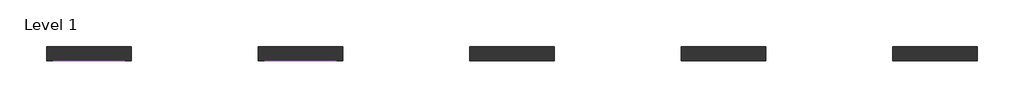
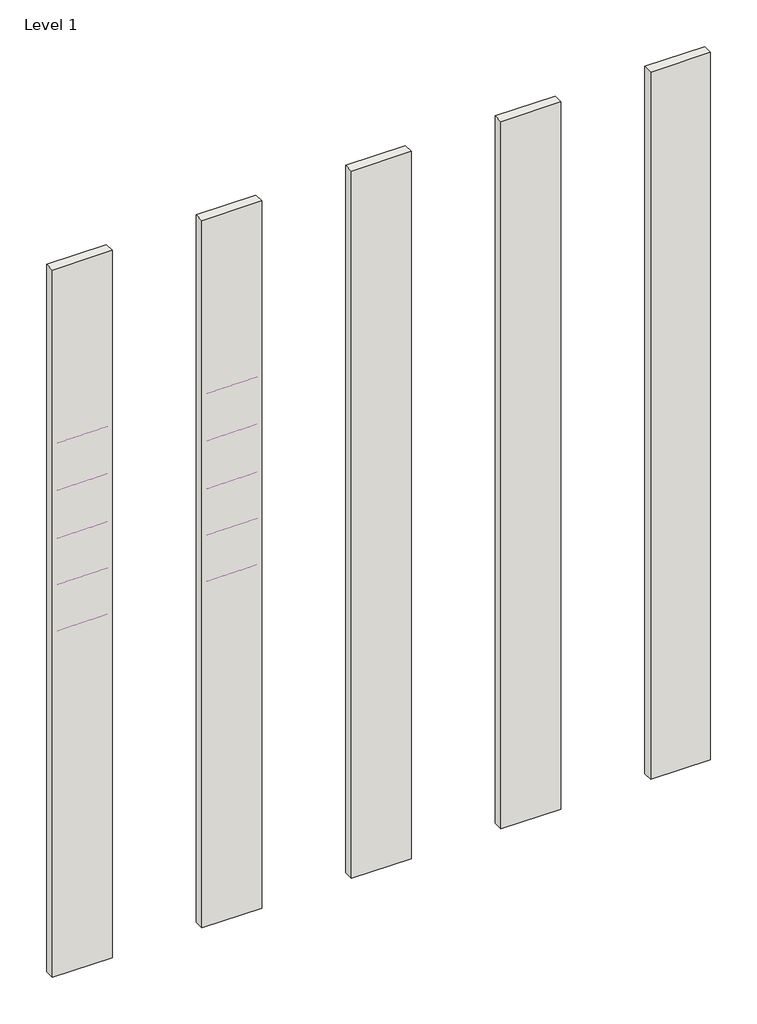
# One storey: 10 coverings, 5 walls.
"""IFC4 building model written with IfcOpenShell, lengths in millimetres."""

from ifc_helpers import new_model, si_unit, point, frame, frame_2d, origin, origin_with_axes, place, context, project, spatial, polyline, circle_curve, trimmed, segment, composite_curve, outline, extrude, element, save

model = new_model("IFC4")

# Units and contexts
model_context = context("Model", 3, world=origin())
ifc_project = project(units=[si_unit("LENGTHUNIT", "METRE", prefix="MILLI")], contexts=[model_context])

# Site, building, storey
site = spatial("IfcSite", under=ifc_project)
building = spatial("IfcBuilding", under=site)
storey = spatial("IfcBuildingStorey", under=building, Name="Level 1", Elevation=0.0)

# Coverings
placement = place(None, origin())
element("IfcCovering", 1, ObjectType="REVIGRES-GRIGIO_DAMASCO-RB-8x118.6-MATT_RECT", at=placement, inside=storey, context=model_context, shape_type="SweptSolid", body=[
    extrude(outline(composite_curve([segment(polyline([(-6973.1153225, 7320.0), (-6982.9153225, 7320.0), (-6982.9153225, 7390.2)]), True, "CONTINUOUS"), segment(trimmed(circle_curve(frame_2d((-6973.1153225, 7390.2)), 9.8), [point((-6982.9153225, 7390.2))], [point((-6973.1153225, 7400.0))], False, "CARTESIAN"), True, "CONTINUOUS"), segment(polyline([(-6973.1153225, 7400.0), (-6973.1153225, 7320.0)]), True, "CONTINUOUS")], self_intersect=False)), frame((6292.0023157, 0.0, 0.0), z_axis=(1.0, 0.0, 0.0), x_axis=(0.0, 1.0, 0.0)), (0.0, 0.0, 1.0), 1000.0),
])
element("IfcCovering", 2, ObjectType="REVIGRES-GRIGIO_DAMASCO-RB-8x59.2-POL", at=placement, inside=storey, context=model_context, shape_type="SweptSolid", body=[
    extrude(outline(composite_curve([segment(polyline([(-6973.1153225, 9280.0), (-6981.1153225, 9280.0), (-6981.1153225, 9352.0)]), True, "CONTINUOUS"), segment(trimmed(circle_curve(frame_2d((-6973.1153225, 9352.0)), 8.0), [point((-6981.1153225, 9352.0))], [point((-6973.1153225, 9360.0))], False, "CARTESIAN"), True, "CONTINUOUS"), segment(polyline([(-6973.1153225, 9360.0), (-6973.1153225, 9280.0)]), True, "CONTINUOUS")], self_intersect=False)), frame((9292.0023157, 0.0, 0.0), z_axis=(1.0, 0.0, 0.0), x_axis=(0.0, 1.0, 0.0)), (0.0, 0.0, 1.0), 1000.0),
])
element("IfcCovering", 3, ObjectType="REVIGRES-GRIGIO_DAMASCO-RB-8x59.2-MATT_RECT", at=placement, inside=storey, context=model_context, shape_type="SweptSolid", body=[
    extrude(outline(composite_curve([segment(polyline([(-6973.1153225, 9280.0), (-6981.6153225, 9280.0), (-6981.6153225, 9351.5)]), True, "CONTINUOUS"), segment(trimmed(circle_curve(frame_2d((-6973.1153225, 9351.5)), 8.5), [point((-6981.6153225, 9351.5))], [point((-6973.1153225, 9360.0))], False, "CARTESIAN"), True, "CONTINUOUS"), segment(polyline([(-6973.1153225, 9360.0), (-6973.1153225, 9280.0)]), True, "CONTINUOUS")], self_intersect=False)), frame((6292.0023157, 0.0, 0.0), z_axis=(1.0, 0.0, 0.0), x_axis=(0.0, 1.0, 0.0)), (0.0, 0.0, 1.0), 1000.0),
])
element("IfcCovering", 4, ObjectType="REVIGRES-GRIGIO_DAMASCO-RB-9.5x29.5-POL", at=placement, inside=storey, context=model_context, shape_type="SweptSolid", body=[
    extrude(outline(composite_curve([segment(polyline([(-6973.1153225, 11300.0), (-6981.1153225, 11300.0), (-6981.1153225, 11387.0)]), True, "CONTINUOUS"), segment(trimmed(circle_curve(frame_2d((-6973.1153225, 11387.0)), 8.0), [point((-6981.1153225, 11387.0))], [point((-6973.1153225, 11395.0))], False, "CARTESIAN"), True, "CONTINUOUS"), segment(polyline([(-6973.1153225, 11395.0), (-6973.1153225, 11300.0)]), True, "CONTINUOUS")], self_intersect=False)), frame((9292.0023157, 0.0, 0.0), z_axis=(1.0, 0.0, 0.0), x_axis=(0.0, 1.0, 0.0)), (0.0, 0.0, 1.0), 1000.0),
])
element("IfcCovering", 5, ObjectType="REVIGRES-GRIGIO_DAMASCO-RB-8x118.6-POL", at=placement, inside=storey, context=model_context, shape_type="SweptSolid", body=[
    extrude(outline(composite_curve([segment(polyline([(-6973.1153225, 7320.0), (-6982.4153225, 7320.0), (-6982.4153225, 7390.7)]), True, "CONTINUOUS"), segment(trimmed(circle_curve(frame_2d((-6973.1153225, 7390.7)), 9.3), [point((-6982.4153225, 7390.7))], [point((-6973.1153225, 7400.0))], False, "CARTESIAN"), True, "CONTINUOUS"), segment(polyline([(-6973.1153225, 7400.0), (-6973.1153225, 7320.0)]), True, "CONTINUOUS")], self_intersect=False)), frame((9292.0023157, 0.0, 0.0), z_axis=(1.0, 0.0, 0.0), x_axis=(0.0, 1.0, 0.0)), (0.0, 0.0, 1.0), 1000.0),
])
element("IfcCovering", 6, ObjectType="REVIGRES-GRIGIO_DAMASCO-RB-8x44.35-MATT_RECT", at=placement, inside=storey, context=model_context, shape_type="SweptSolid", body=[
    extrude(outline(composite_curve([segment(polyline([(-6973.1153225, 10300.0), (-6981.3153225, 10300.0), (-6981.3153225, 10371.8)]), True, "CONTINUOUS"), segment(trimmed(circle_curve(frame_2d((-6973.1153225, 10371.8)), 8.2), [point((-6981.3153225, 10371.8))], [point((-6973.1153225, 10380.0))], False, "CARTESIAN"), True, "CONTINUOUS"), segment(polyline([(-6973.1153225, 10380.0), (-6973.1153225, 10300.0)]), True, "CONTINUOUS")], self_intersect=False)), frame((6292.0023157, 0.0, 0.0), z_axis=(1.0, 0.0, 0.0), x_axis=(0.0, 1.0, 0.0)), (0.0, 0.0, 1.0), 1000.0),
])
element("IfcCovering", 7, ObjectType="REVIGRES-GRIGIO_DAMASCO-RB-8x88.9-POL", at=placement, inside=storey, context=model_context, shape_type="SweptSolid", body=[
    extrude(outline(composite_curve([segment(polyline([(-6973.1153225, 8300.0), (-6982.9153225, 8300.0), (-6982.9153225, 8370.2)]), True, "CONTINUOUS"), segment(trimmed(circle_curve(frame_2d((-6973.1153225, 8370.2)), 9.8), [point((-6982.9153225, 8370.2))], [point((-6973.1153225, 8380.0))], False, "CARTESIAN"), True, "CONTINUOUS"), segment(polyline([(-6973.1153225, 8380.0), (-6973.1153225, 8300.0)]), True, "CONTINUOUS")], self_intersect=False)), frame((9292.0023157, 0.0, 0.0), z_axis=(1.0, 0.0, 0.0), x_axis=(0.0, 1.0, 0.0)), (0.0, 0.0, 1.0), 1000.0),
])
element("IfcCovering", 8, ObjectType="REVIGRES-GRIGIO_DAMASCO-RB-9.5x29.5-MATTRECT", at=placement, inside=storey, context=model_context, shape_type="SweptSolid", body=[
    extrude(outline(composite_curve([segment(polyline([(-6973.1153225, 11300.0), (-6981.6153225, 11300.0), (-6981.6153225, 11386.5)]), True, "CONTINUOUS"), segment(trimmed(circle_curve(frame_2d((-6973.1153225, 11386.5)), 8.5), [point((-6981.6153225, 11386.5))], [point((-6973.1153225, 11395.0))], False, "CARTESIAN"), True, "CONTINUOUS"), segment(polyline([(-6973.1153225, 11395.0), (-6973.1153225, 11300.0)]), True, "CONTINUOUS")], self_intersect=False)), frame((6292.0023157, 0.0, 0.0), z_axis=(1.0, 0.0, 0.0), x_axis=(0.0, 1.0, 0.0)), (0.0, 0.0, 1.0), 1000.0),
])
element("IfcCovering", 9, ObjectType="REVIGRES-GRIGIO_DAMASCO-RB-8x88.9-MATT_RECT", at=placement, inside=storey, context=model_context, shape_type="SweptSolid", body=[
    extrude(outline(composite_curve([segment(polyline([(-6973.1153225, 8300.0), (-6983.6153225, 8300.0), (-6983.6153225, 8369.5)]), True, "CONTINUOUS"), segment(trimmed(circle_curve(frame_2d((-6973.1153225, 8369.5)), 10.5), [point((-6983.6153225, 8369.5))], [point((-6973.1153225, 8380.0))], False, "CARTESIAN"), True, "CONTINUOUS"), segment(polyline([(-6973.1153225, 8380.0), (-6973.1153225, 8300.0)]), True, "CONTINUOUS")], self_intersect=False)), frame((6292.0023157, 0.0, 0.0), z_axis=(1.0, 0.0, 0.0), x_axis=(0.0, 1.0, 0.0)), (0.0, 0.0, 1.0), 1000.0),
])
element("IfcCovering", 10, ObjectType="REVIGRES-GRIGIO_DAMASCO-RB-8x44.35-POL", at=placement, inside=storey, context=model_context, shape_type="SweptSolid", body=[
    extrude(outline(composite_curve([segment(polyline([(-6973.1153225, 10300.0), (-6980.8153225, 10300.0), (-6980.8153225, 10372.3)]), True, "CONTINUOUS"), segment(trimmed(circle_curve(frame_2d((-6973.1153225, 10372.3)), 7.7), [point((-6980.8153225, 10372.3))], [point((-6973.1153225, 10380.0))], False, "CARTESIAN"), True, "CONTINUOUS"), segment(polyline([(-6973.1153225, 10380.0), (-6973.1153225, 10300.0)]), True, "CONTINUOUS")], self_intersect=False)), frame((9292.0023157, 0.0, 0.0), z_axis=(1.0, 0.0, 0.0), x_axis=(0.0, 1.0, 0.0)), (0.0, 0.0, 1.0), 1000.0),
])

# Walls
element("IfcWall", 11, ObjectType="Wall 1", at=placement, inside=storey, context=model_context, shape_type="SweptSolid", body=[
    extrude(outline(polyline([(7392.0023157, -6973.1153225), (6192.0023157, -6973.1153225), (6192.0023157, -6773.1153225), (7392.0023157, -6773.1153225), (7392.0023157, -6973.1153225)])), origin_with_axes(), (0.0, 0.0, 1.0), 15000.0),
])
element("IfcWall", 12, ObjectType="Wall 1", at=placement, inside=storey, context=model_context, shape_type="SweptSolid", body=[
    extrude(outline(polyline([(10392.0023157, -6973.1153225), (9192.0023157, -6973.1153225), (9192.0023157, -6773.1153225), (10392.0023157, -6773.1153225), (10392.0023157, -6973.1153225)])), origin_with_axes(), (0.0, 0.0, 1.0), 15000.0),
])
element("IfcWall", 13, ObjectType="Wall 1", at=placement, inside=storey, context=model_context, shape_type="SweptSolid", body=[
    extrude(outline(polyline([(13392.0023157, -6973.1153225), (12192.0023157, -6973.1153225), (12192.0023157, -6773.1153225), (13392.0023157, -6773.1153225), (13392.0023157, -6973.1153225)])), origin_with_axes(), (0.0, 0.0, 1.0), 15000.0),
])
element("IfcWall", 14, ObjectType="Wall 1", at=placement, inside=storey, context=model_context, shape_type="SweptSolid", body=[
    extrude(outline(polyline([(16392.0023157, -6973.1153225), (15192.0023157, -6973.1153225), (15192.0023157, -6773.1153225), (16392.0023157, -6773.1153225), (16392.0023157, -6973.1153225)])), origin_with_axes(), (0.0, 0.0, 1.0), 15000.0),
])
element("IfcWall", 15, ObjectType="Wall 1", at=placement, inside=storey, context=model_context, shape_type="SweptSolid", body=[
    extrude(outline(polyline([(19392.0023157, -6973.1153225), (18192.0023157, -6973.1153225), (18192.0023157, -6773.1153225), (19392.0023157, -6773.1153225), (19392.0023157, -6973.1153225)])), origin_with_axes(), (0.0, 0.0, 1.0), 15000.0),
])

save(model, "model.ifc")
